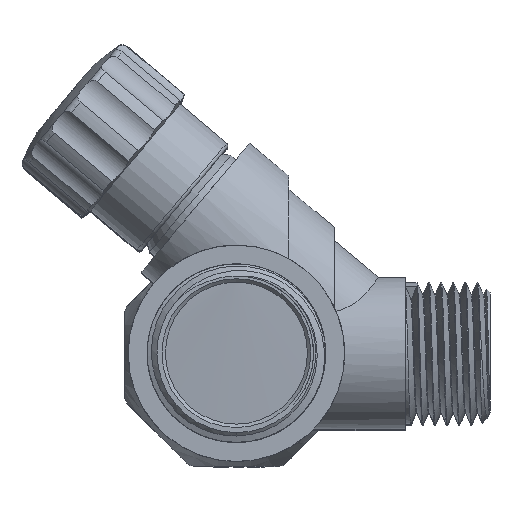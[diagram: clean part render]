
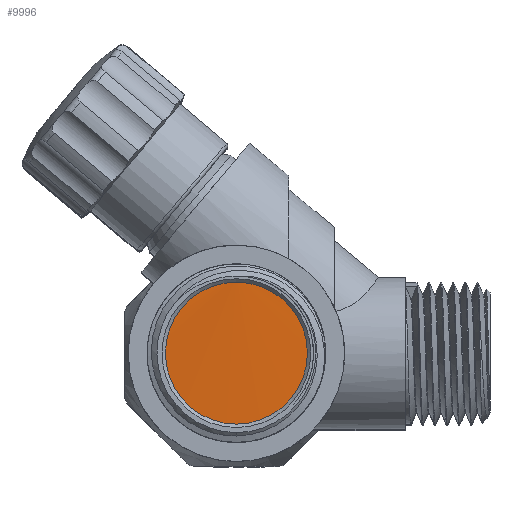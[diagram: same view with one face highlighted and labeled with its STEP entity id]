
A CAD part, top view. The second image highlights one B-rep face of the part: STEP entity #9996.
In plain terms, the highlighted cylindrical face has radius 11.4 mm (diameter 22.8 mm), a full revolution.
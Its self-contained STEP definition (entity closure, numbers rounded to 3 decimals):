
#481=FACE_OUTER_BOUND('',#1054,.T.);
#1054=EDGE_LOOP('',(#6501,#6502,#6503));
#2091=B_SPLINE_CURVE_WITH_KNOTS('',3,(#14256,#14257,#14258,#14259,#14260,
#14261,#14262,#14263,#14264,#14265,#14266,#14267,#14268,#14269,#14270,#14271,
#14272),.UNSPECIFIED.,.F.,.F.,(4,1,1,1,1,1,1,1,1,1,1,1,1,1,4),(9.425,
9.55,10.043,10.536,11.029,11.522,
12.015,12.508,13.001,13.494,13.987,
14.48,14.973,15.466,15.708),
 .UNSPECIFIED.);
#2631=LINE('',#14253,#3207);
#2632=LINE('',#14255,#3208);
#3207=VECTOR('',#11609,11.4);
#3208=VECTOR('',#11610,11.4);
#3787=VERTEX_POINT('',#14251);
#3788=VERTEX_POINT('',#14252);
#3789=VERTEX_POINT('',#14254);
#4880=EDGE_CURVE('',#3787,#3788,#2631,.T.);
#4881=EDGE_CURVE('',#3789,#3787,#2632,.T.);
#4882=EDGE_CURVE('',#3789,#3788,#2091,.T.);
#6501=ORIENTED_EDGE('',*,*,#4880,.F.);
#6502=ORIENTED_EDGE('',*,*,#4881,.F.);
#6503=ORIENTED_EDGE('',*,*,#4882,.T.);
#9736=CYLINDRICAL_SURFACE('',#10590,11.4);
#9996=ADVANCED_FACE('',(#481),#9736,.T.);
#10590=AXIS2_PLACEMENT_3D('',#14250,#11607,#11608);
#11607=DIRECTION('center_axis',(0.,0.,-1.));
#11608=DIRECTION('ref_axis',(0.,-1.,0.));
#11609=DIRECTION('',(0.,0.,-1.));
#11610=DIRECTION('',(0.,0.,-1.));
#14250=CARTESIAN_POINT('Origin',(0.,0.,83.35));
#14251=CARTESIAN_POINT('',(0.,11.4,80.6));
#14252=CARTESIAN_POINT('',(0.,11.4,78.9));
#14253=CARTESIAN_POINT('',(0.,11.4,83.35));
#14254=CARTESIAN_POINT('',(0.,11.4,80.7));
#14255=CARTESIAN_POINT('',(0.,11.4,83.35));
#14256=CARTESIAN_POINT('Ctrl Pts',(0.,11.4,
80.7));
#14257=CARTESIAN_POINT('Ctrl Pts',(0.477,11.4,80.688));
#14258=CARTESIAN_POINT('Ctrl Pts',(2.827,11.255,80.629));
#14259=CARTESIAN_POINT('Ctrl Pts',(6.884,9.673,80.523));
#14260=CARTESIAN_POINT('Ctrl Pts',(10.642,5.263,80.382));
#14261=CARTESIAN_POINT('Ctrl Pts',(11.865,-0.4,
80.24));
#14262=CARTESIAN_POINT('Ctrl Pts',(10.263,-5.968,80.099));
#14263=CARTESIAN_POINT('Ctrl Pts',(6.217,-10.114,79.958));
#14264=CARTESIAN_POINT('Ctrl Pts',(0.69,-11.852,
79.817));
#14265=CARTESIAN_POINT('Ctrl Pts',(-5.001,-10.767,
79.675));
#14266=CARTESIAN_POINT('Ctrl Pts',(-9.501,-7.119,
79.534));
#14267=CARTESIAN_POINT('Ctrl Pts',(-11.739,-1.775,
79.393));
#14268=CARTESIAN_POINT('Ctrl Pts',(-11.181,3.992,79.252));
#14269=CARTESIAN_POINT('Ctrl Pts',(-7.96,8.808,79.111));
#14270=CARTESIAN_POINT('Ctrl Pts',(-3.713,11.065,78.993));
#14271=CARTESIAN_POINT('Ctrl Pts',(-0.919,11.399,
78.923));
#14272=CARTESIAN_POINT('Ctrl Pts',(0.,11.399,
78.9));
